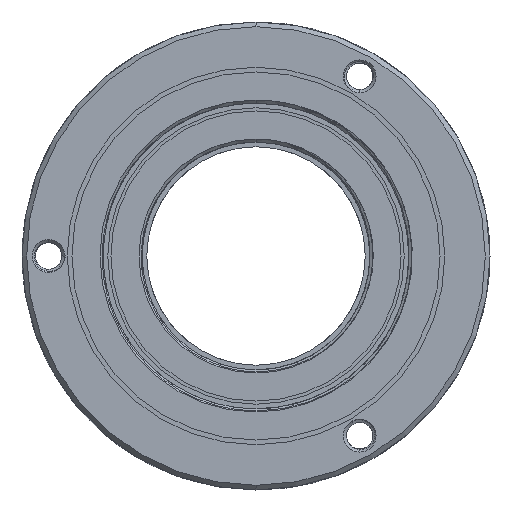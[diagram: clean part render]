
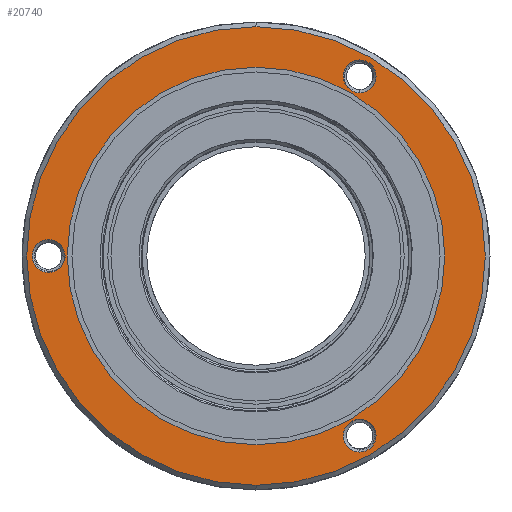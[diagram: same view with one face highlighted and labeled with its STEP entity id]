
A CAD part, left-side view. The second image highlights one B-rep face of the part: STEP entity #20740.
In plain terms, the highlighted planar face has unit normal (-1, 0, 0).
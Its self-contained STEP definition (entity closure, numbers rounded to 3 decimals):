
#130 = VERTEX_POINT ( 'NONE', #4284 ) ;
#163 = CIRCLE ( 'NONE', #984, 12.1 ) ;
#740 = EDGE_LOOP ( 'NONE', ( #2838, #8237 ) ) ;
#984 = AXIS2_PLACEMENT_3D ( 'NONE', #11333, #1387, #12997 ) ;
#1114 = CARTESIAN_POINT ( 'NONE',  ( 9., -6.65, 10.468 ) ) ;
#1121 = ORIENTED_EDGE ( 'NONE', *, *, #12115, .F. ) ;
#1387 = DIRECTION ( 'NONE',  ( -1., 0., 0. ) ) ;
#1508 = CARTESIAN_POINT ( 'NONE',  ( 9., 0., -12.1 ) ) ;
#1593 = DIRECTION ( 'NONE',  ( 0., 0., 1. ) ) ;
#1605 = ORIENTED_EDGE ( 'NONE', *, *, #12191, .F. ) ;
#1747 = DIRECTION ( 'NONE',  ( -1., 0., 0. ) ) ;
#1840 = AXIS2_PLACEMENT_3D ( 'NONE', #6688, #18330, #8388 ) ;
#1914 = VERTEX_POINT ( 'NONE', #20028 ) ;
#2362 = CARTESIAN_POINT ( 'NONE',  ( 9., -6.65, -11.518 ) ) ;
#2514 = FACE_BOUND ( 'NONE', #21012, .T. ) ;
#2838 = ORIENTED_EDGE ( 'NONE', *, *, #19221, .F. ) ;
#3046 = FACE_BOUND ( 'NONE', #740, .T. ) ;
#3080 = ORIENTED_EDGE ( 'NONE', *, *, #11088, .F. ) ;
#3338 = CIRCLE ( 'NONE', #8236, 12.1 ) ;
#3369 = DIRECTION ( 'NONE',  ( -1., 0., 0. ) ) ;
#3681 = DIRECTION ( 'NONE',  ( 1., 0., 0. ) ) ;
#3766 = VERTEX_POINT ( 'NONE', #14313 ) ;
#4016 = ORIENTED_EDGE ( 'NONE', *, *, #19539, .F. ) ;
#4049 = DIRECTION ( 'NONE',  ( 0., 0., 1. ) ) ;
#4284 = CARTESIAN_POINT ( 'NONE',  ( 9., 0., -14.7 ) ) ;
#4298 = PLANE ( 'NONE',  #16995 ) ;
#4664 = VERTEX_POINT ( 'NONE', #21046 ) ;
#4700 = CIRCLE ( 'NONE', #20851, 1.05 ) ;
#5132 = DIRECTION ( 'NONE',  ( 1., 0., 0. ) ) ;
#5225 = EDGE_CURVE ( 'NONE', #13773, #8515, #3338, .T. ) ;
#5379 = EDGE_CURVE ( 'NONE', #11948, #16596, #14223, .T. ) ;
#5859 = CARTESIAN_POINT ( 'NONE',  ( 9., -6.65, -12.568 ) ) ;
#6034 = DIRECTION ( 'NONE',  ( -1., 0., 0. ) ) ;
#6413 = EDGE_LOOP ( 'NONE', ( #20321, #6937 ) ) ;
#6414 = FACE_OUTER_BOUND ( 'NONE', #16373, .T. ) ;
#6487 = EDGE_CURVE ( 'NONE', #1914, #3766, #17297, .T. ) ;
#6688 = CARTESIAN_POINT ( 'NONE',  ( 9., 13.3, 0. ) ) ;
#6937 = ORIENTED_EDGE ( 'NONE', *, *, #6487, .F. ) ;
#7507 = CIRCLE ( 'NONE', #21415, 14.7 ) ;
#8236 = AXIS2_PLACEMENT_3D ( 'NONE', #21456, #11526, #1593 ) ;
#8237 = ORIENTED_EDGE ( 'NONE', *, *, #5225, .F. ) ;
#8388 = DIRECTION ( 'NONE',  ( 0., 0., 1. ) ) ;
#8515 = VERTEX_POINT ( 'NONE', #12984 ) ;
#8631 = CARTESIAN_POINT ( 'NONE',  ( 9., 13.3, 0. ) ) ;
#8858 = CIRCLE ( 'NONE', #15154, 1.05 ) ;
#9351 = DIRECTION ( 'NONE',  ( 1., 0., 0. ) ) ;
#9465 = CIRCLE ( 'NONE', #14377, 1.05 ) ;
#10291 = DIRECTION ( 'NONE',  ( 0., 0., 1. ) ) ;
#10854 = FACE_BOUND ( 'NONE', #6413, .T. ) ;
#11088 = EDGE_CURVE ( 'NONE', #17617, #18867, #4700, .T. ) ;
#11156 = AXIS2_PLACEMENT_3D ( 'NONE', #2362, #13986, #4049 ) ;
#11333 = CARTESIAN_POINT ( 'NONE',  ( 9., 0., 0. ) ) ;
#11526 = DIRECTION ( 'NONE',  ( -1., 0., 0. ) ) ;
#11676 = CARTESIAN_POINT ( 'NONE',  ( 9., -6.65, -11.518 ) ) ;
#11823 = EDGE_CURVE ( 'NONE', #16596, #11948, #8858, .T. ) ;
#11948 = VERTEX_POINT ( 'NONE', #18581 ) ;
#12115 = EDGE_CURVE ( 'NONE', #4664, #130, #12973, .T. ) ;
#12191 = EDGE_CURVE ( 'NONE', #130, #4664, #7507, .T. ) ;
#12443 = ORIENTED_EDGE ( 'NONE', *, *, #5379, .F. ) ;
#12973 = CIRCLE ( 'NONE', #16971, 14.7 ) ;
#12984 = CARTESIAN_POINT ( 'NONE',  ( 9., 0., 12.1 ) ) ;
#12997 = DIRECTION ( 'NONE',  ( 0., 0., 1. ) ) ;
#13317 = CARTESIAN_POINT ( 'NONE',  ( 9., -6.65, 11.518 ) ) ;
#13352 = DIRECTION ( 'NONE',  ( 0., 0., 1. ) ) ;
#13506 = AXIS2_PLACEMENT_3D ( 'NONE', #15972, #6034, #17662 ) ;
#13628 = CARTESIAN_POINT ( 'NONE',  ( 9., 0., 0. ) ) ;
#13773 = VERTEX_POINT ( 'NONE', #1508 ) ;
#13986 = DIRECTION ( 'NONE',  ( -1., 0., 0. ) ) ;
#14223 = CIRCLE ( 'NONE', #11156, 1.05 ) ;
#14313 = CARTESIAN_POINT ( 'NONE',  ( 9., 13.3, 1.05 ) ) ;
#14377 = AXIS2_PLACEMENT_3D ( 'NONE', #8631, #20219, #10291 ) ;
#14968 = DIRECTION ( 'NONE',  ( 0., 0., 1. ) ) ;
#15063 = CARTESIAN_POINT ( 'NONE',  ( 9., 0., 0. ) ) ;
#15154 = AXIS2_PLACEMENT_3D ( 'NONE', #11676, #1747, #13352 ) ;
#15283 = DIRECTION ( 'NONE',  ( 0., 0., -1. ) ) ;
#15356 = EDGE_CURVE ( 'NONE', #3766, #1914, #9465, .T. ) ;
#15972 = CARTESIAN_POINT ( 'NONE',  ( 9., -6.65, 11.518 ) ) ;
#16373 = EDGE_LOOP ( 'NONE', ( #1605, #1121 ) ) ;
#16596 = VERTEX_POINT ( 'NONE', #5859 ) ;
#16745 = DIRECTION ( 'NONE',  ( 0., 0., -1. ) ) ;
#16899 = CARTESIAN_POINT ( 'NONE',  ( 9., -6.65, 12.568 ) ) ;
#16971 = AXIS2_PLACEMENT_3D ( 'NONE', #15063, #5132, #16745 ) ;
#16995 = AXIS2_PLACEMENT_3D ( 'NONE', #17517, #9351, #20924 ) ;
#17297 = CIRCLE ( 'NONE', #1840, 1.05 ) ;
#17517 = CARTESIAN_POINT ( 'NONE',  ( 9., 15., 0. ) ) ;
#17617 = VERTEX_POINT ( 'NONE', #16899 ) ;
#17662 = DIRECTION ( 'NONE',  ( 0., 0., 1. ) ) ;
#17804 = CIRCLE ( 'NONE', #13506, 1.05 ) ;
#18330 = DIRECTION ( 'NONE',  ( -1., 0., 0. ) ) ;
#18581 = CARTESIAN_POINT ( 'NONE',  ( 9., -6.65, -10.468 ) ) ;
#18867 = VERTEX_POINT ( 'NONE', #1114 ) ;
#19221 = EDGE_CURVE ( 'NONE', #8515, #13773, #163, .T. ) ;
#19539 = EDGE_CURVE ( 'NONE', #18867, #17617, #17804, .T. ) ;
#19914 = EDGE_LOOP ( 'NONE', ( #3080, #4016 ) ) ;
#20028 = CARTESIAN_POINT ( 'NONE',  ( 9., 13.3, -1.05 ) ) ;
#20197 = FACE_BOUND ( 'NONE', #19914, .T. ) ;
#20219 = DIRECTION ( 'NONE',  ( -1., 0., 0. ) ) ;
#20321 = ORIENTED_EDGE ( 'NONE', *, *, #15356, .F. ) ;
#20740 = ADVANCED_FACE ( 'NONE', ( #3046, #10854, #2514, #20197, #6414 ), #4298, .F. ) ;
#20851 = AXIS2_PLACEMENT_3D ( 'NONE', #13317, #3369, #14968 ) ;
#20924 = DIRECTION ( 'NONE',  ( 0., 0., -1. ) ) ;
#21012 = EDGE_LOOP ( 'NONE', ( #12443, #21515 ) ) ;
#21046 = CARTESIAN_POINT ( 'NONE',  ( 9., 0., 14.7 ) ) ;
#21415 = AXIS2_PLACEMENT_3D ( 'NONE', #13628, #3681, #15283 ) ;
#21456 = CARTESIAN_POINT ( 'NONE',  ( 9., 0., 0. ) ) ;
#21515 = ORIENTED_EDGE ( 'NONE', *, *, #11823, .F. ) ;
